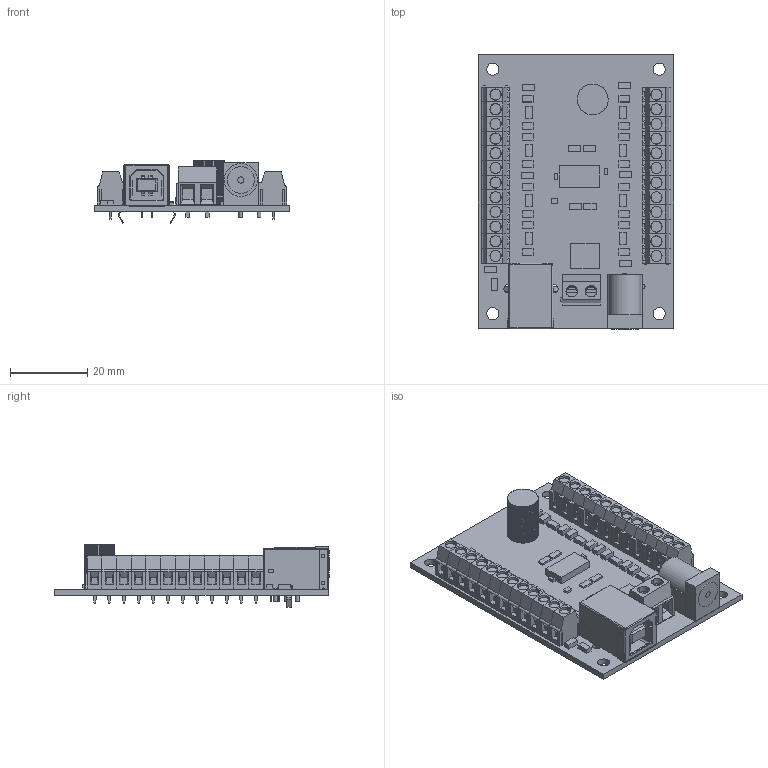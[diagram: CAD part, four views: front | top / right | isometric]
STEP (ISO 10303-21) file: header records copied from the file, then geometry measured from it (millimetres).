
FILE_DESCRIPTION(('Open CASCADE Model'),'2;1');
FILE_NAME('Open CASCADE Shape Model','2010-10-27T13:13:22',('Author'),( 'Open CASCADE'),'Open CASCADE STEP processor 6.2','Open CASCADE 6.2' ,'Unknown');
FILE_SCHEMA(('AUTOMOTIVE_DESIGN { 1 0 10303 214 1 1 1 1 }'));
Length unit declared in the file: millimetre
Products named in the file (89): PCB; Board; J4; 398900302; Open CASCADE STEP translator 6.2 232.2.1.1; Open CASCADE STEP translator 6.2 232.2.1.2; J3; 20020327-d12_asm; 20020327-D-LEM; 20020327-D-REM; J2; J1; 670688000; Open CASCADE STEP translator 6.2 232.5.1.1; Open CASCADE STEP translator 6.2 232.5.1.2; U11; 603635088; Extruded; U10; 603635728; U9; U8; U7; U5; U4; U3; U2; 603630096; U1; R5; 489473344; R4; R3; R2; J5; 598172448; Cylinder; 598172336; 598172224; 598172112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
Assembly tree (133 placements, depth 4):
  PCB
    Board
    J4
      398900302
        Open CASCADE STEP translator 6.2 232.2.1.1
        Open CASCADE STEP translator 6.2 232.2.1.2
    J3
      20020327-d12_asm
        20020327-D-LEM
        20020327-D-REM  x12
    J2
      20020327-d12_asm
        20020327-D-LEM
        20020327-D-REM  x12
    J1
      670688000
        Open CASCADE STEP translator 6.2 232.5.1.1
        Open CASCADE STEP translator 6.2 232.5.1.2
    U11
      603635088
        Extruded
    U10
      603635728
        Extruded
    U9
      603635728
        Extruded
    U8
      603635728
        Extruded
    U7
      603635728
        Extruded
    U5
      603635728
        Extruded
    U4
      603635728
        Extruded
    U3
      603635728
        Extruded
    U2
      603630096
        Extruded
    U1
      603635728
        Extruded
    R5
      489473344
        Extruded
    R4
      489473344
        Extruded
    R3
      489473344
        Extruded
    R2
      489473344
        Extruded
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Bounding box: 50.8 x 71.4 x 16.22 mm (x, y, z)
Volume: 15127.6 mm3; surface area: 21471.3 mm2
Topology: 104 solids, 104 shells, 3470 faces, 9022 edges, 5824 vertices
Faces by surface type: plane 2912, cylinder 504, cone 52, torus 2
Full cylindrical faces by diameter (mm): 0.965 x4, 1 x3, 1.067 x4, 1.321 x27, 1.6 x1, 2.184 x2, 3.175 x4, 7 x1, 8.6 x1
Entity records: 49174 total; most frequent: CARTESIAN_POINT 10919, DIRECTION 6844, LINE 4587, VECTOR 4587, ORIENTED_EDGE 3626, PCURVE 3626, DEFINITIONAL_REPRESENTATION 3626, EDGE_CURVE 1813
